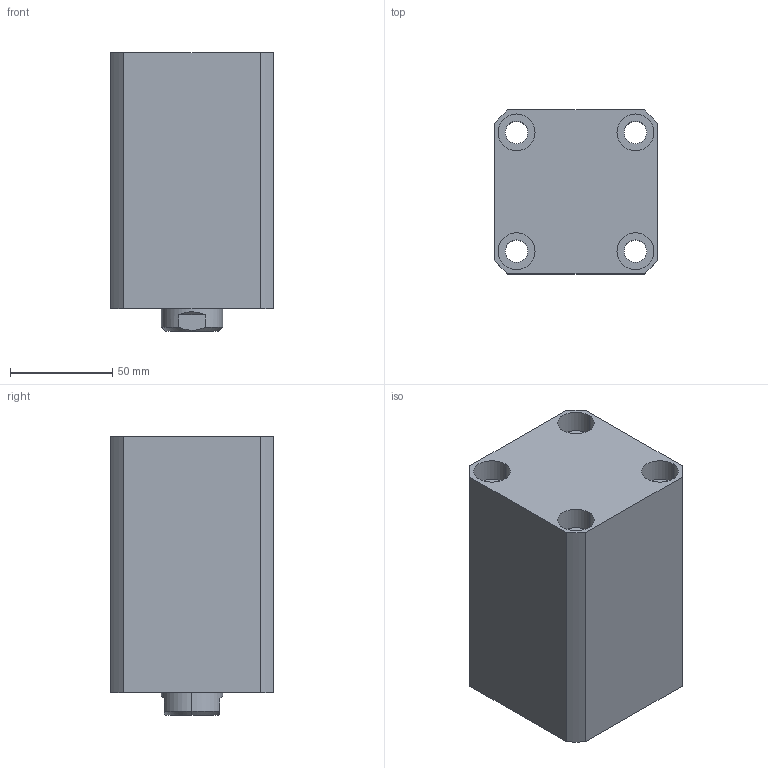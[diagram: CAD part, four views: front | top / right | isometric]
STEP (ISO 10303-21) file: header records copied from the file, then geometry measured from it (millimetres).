
FILE_DESCRIPTION (( 'STEP AP203' ), '1' );
FILE_NAME ('CHTB-SD50-65N.STEP', '2018-05-19T00:08:30', ( '' ), ( '' ), 'SwSTEP 2.0', 'SolidWorks 2015', '' );
FILE_SCHEMA (( 'CONFIG_CONTROL_DESIGN' ));
Length unit declared in the file: millimetre
Products named in the file (4): CHTM-SD50QG; 活塞杆SD50-65N; CHTB-SD50-65N; 掛极SD50-65N
Assembly tree (3 placements, depth 2):
  CHTB-SD50-65N
    掛极SD50-65N
    活塞杆SD50-65N
    CHTM-SD50QG
Bounding box: 80 x 80 x 136 mm (x, y, z)
Volume: 638031.2 mm3; surface area: 123450.2 mm2
Topology: 3 solids, 3 shells, 194 faces, 499 edges, 330 vertices
Faces by surface type: cylinder 104, plane 39, cone 21, torus 16, bspline 14
Entity records: 10789 total; most frequent: CARTESIAN_POINT 5840, ORIENTED_EDGE 986, DIRECTION 914, EDGE_CURVE 493, AXIS2_PLACEMENT_3D 383, VERTEX_POINT 330, EDGE_LOOP 233, CIRCLE 197
